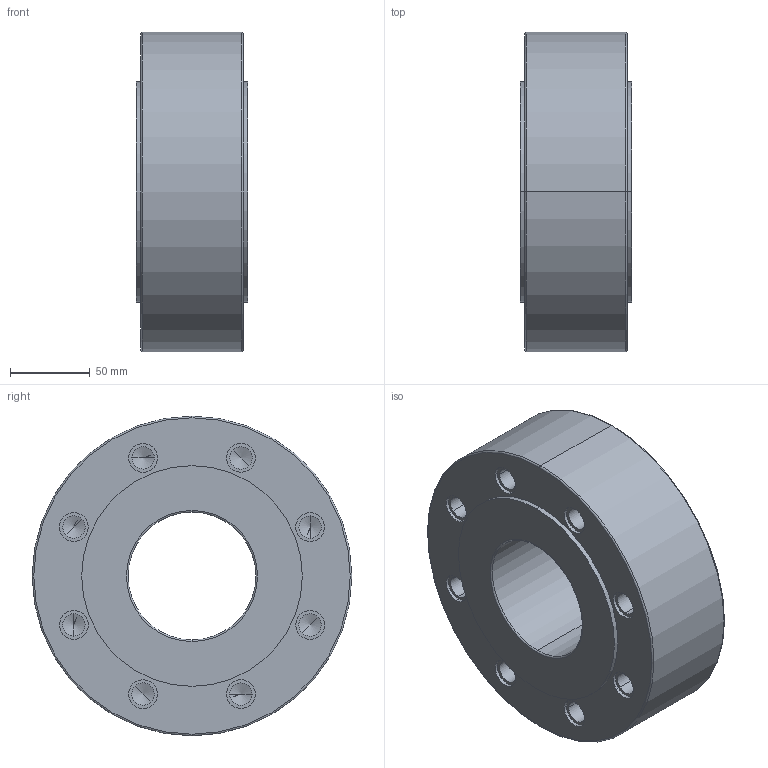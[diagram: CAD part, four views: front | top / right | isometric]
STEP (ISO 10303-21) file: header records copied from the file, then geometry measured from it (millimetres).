
FILE_DESCRIPTION (( 'STEP AP203' ), '1' );
FILE_NAME ('W8_PN10_DN080.STEP', '2012-10-31T06:56:40', ( 'luca.saino' ), ( 'Hewlett-Packard Company' ), 'SwSTEP 2.0', 'SolidWorks 2012', '' );
FILE_SCHEMA (( 'CONFIG_CONTROL_DESIGN' ));
Length unit declared in the file: millimetre
Products named in the file (1): W8_PN10_DN080
Bounding box: 70 x 200 x 200 mm (x, y, z)
Volume: 1690473 mm3; surface area: 127945.9 mm2
Topology: 1 solids, 1 shells, 132 faces, 296 edges, 168 vertices
Faces by surface type: cylinder 72, cone 32, plane 20, torus 8
Entity records: 3557 total; most frequent: DIRECTION 690, CARTESIAN_POINT 565, ORIENTED_EDGE 528, AXIS2_PLACEMENT_3D 293, EDGE_CURVE 264, EDGE_LOOP 168, VERTEX_POINT 168, CIRCLE 160
